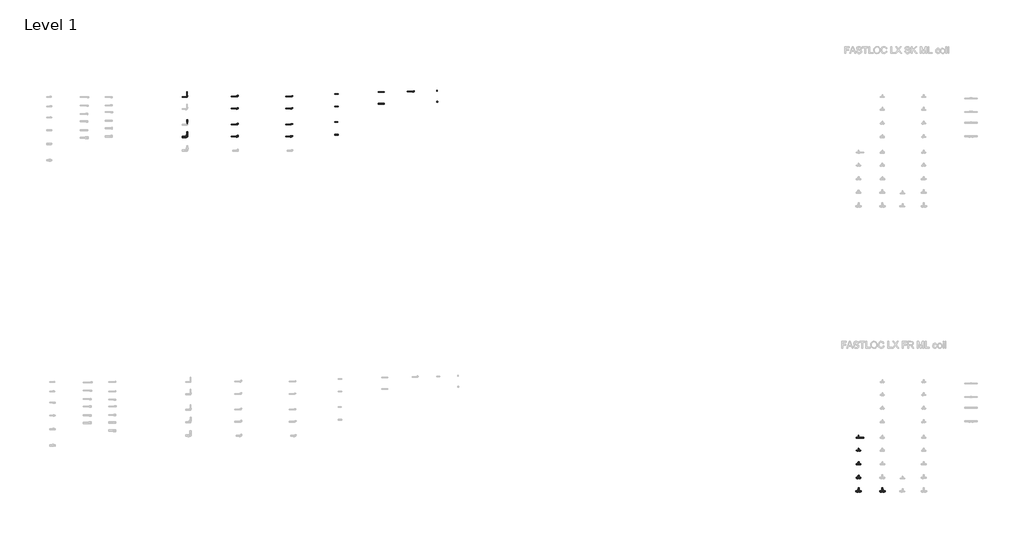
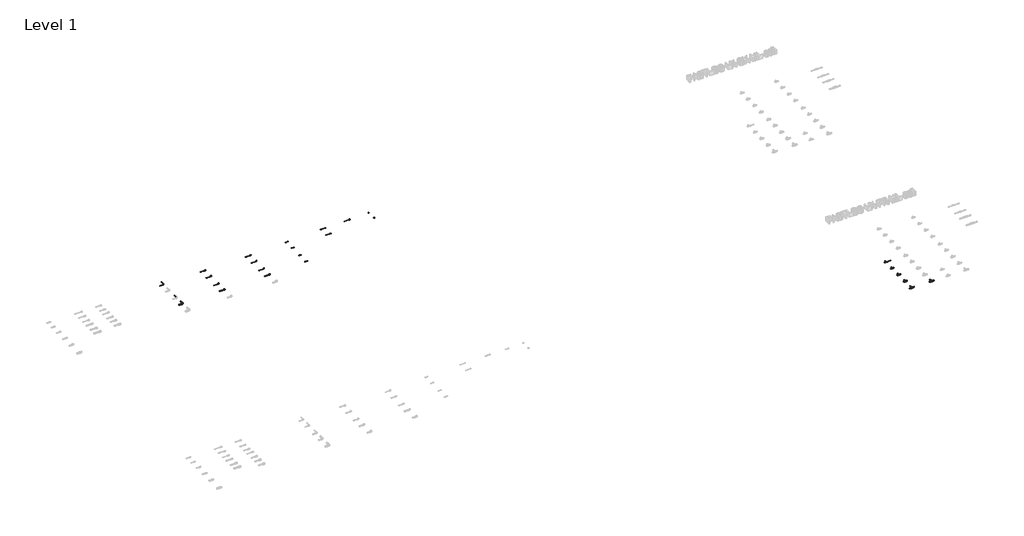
# One storey, part 33 of 78: 39 pipe segments, 19 pipe fittings.
"""IFC4 building model written with IfcOpenShell, lengths in millimetres."""

from ifc_helpers import new_model, si_unit, point, frame, frame_2d, origin, place, context, project, spatial, circle_curve, trimmed, segment, composite_curve, outline, extrude, transform, mapped, element, save
from components import pipe_fitting_ec6341fa, pipe_fitting_b55198ad, pipe_fitting_8d4eabeb, pipe_fitting_91101529, pipe_fitting_310333dd, pipe_fitting_d1609a9c, pipe_fitting_bded02bd, pipe_fitting_da5243fc, pipe_fitting_29102c59, pipe_fitting_edf19c19, pipe_fitting_b873231b, pipe_fitting_ea484583, pipe_fitting_24e9e25e

model = new_model("IFC4")

# Units and contexts
model_context = context("Model", 3, world=origin())
ifc_project = project(units=[si_unit("LENGTHUNIT", "METRE", prefix="MILLI")], contexts=[model_context])

# Site, building, storey
site = spatial("IfcSite", under=ifc_project)
building = spatial("IfcBuilding", under=site)
storey = spatial("IfcBuildingStorey", under=building, Name="Level 1", Elevation=0.0)

# Pipe fittings
placement = place(None, origin())
pipe_fitting_shape = pipe_fitting_ec6341fa(model_context)
element("IfcPipeFitting", 1, ObjectType="FASTLOC_Blanking plug LX : FSL Bp LX IT", at=placement, inside=storey, context=model_context, shape_type="MappedRepresentation", body=[
    mapped(pipe_fitting_shape, transform((43295.4857845, -18556.0968766, 0.0), x_axis=(1.0, 0.0, 0.0), y_axis=(0.0, 1.0, 0.0), z_axis=(0.0, 0.0, 1.0))),
])
pipe_fitting_2_shape = pipe_fitting_b55198ad(model_context)
element("IfcPipeFitting", 2, ObjectType="FASTLOC_Corner LX : FSL C LX IT", at=placement, inside=storey, context=model_context, shape_type="MappedRepresentation", body=[
    mapped(pipe_fitting_2_shape, transform((35945.4707441, -18738.8136389, 0.0), x_axis=(1.0, 0.0, 0.0), y_axis=(0.0, 1.0, 0.0), z_axis=(0.0, 0.0, 1.0))),
])
pipe_fitting_3_shape = pipe_fitting_8d4eabeb(model_context)
element("IfcPipeFitting", 3, ObjectType="FASTLOC_Elbow with female thread LX : FSL A internal IT", at=placement, inside=storey, context=model_context, shape_type="MappedRepresentation", body=[
    mapped(pipe_fitting_3_shape, transform((39036.9744513, -18724.4914884, 0.0), x_axis=(1.0, 0.0, 0.0), y_axis=(0.0, 1.0, 0.0), z_axis=(0.0, 0.0, 1.0))),
])
element("IfcPipeFitting", 4, ObjectType="FASTLOC_Elbow with female thread LX : FSL A internal IT", at=placement, inside=storey, context=model_context, shape_type="MappedRepresentation", body=[
    mapped(pipe_fitting_3_shape, transform((39036.9744513, -19084.4914884, 0.0), x_axis=(1.0, 0.0, 0.0), y_axis=(0.0, 1.0, 0.0), z_axis=(0.0, 0.0, 1.0))),
])
element("IfcPipeFitting", 5, ObjectType="FASTLOC_Elbow with female thread LX : FSL A internal IT", at=placement, inside=storey, context=model_context, shape_type="MappedRepresentation", body=[
    mapped(pipe_fitting_3_shape, transform((39036.9744513, -19544.4914884, 0.0), x_axis=(1.0, 0.0, 0.0), y_axis=(0.0, 1.0, 0.0), z_axis=(0.0, 0.0, 1.0))),
])
pipe_fitting_4_shape = pipe_fitting_91101529(model_context)
element("IfcPipeFitting", 6, ObjectType="FASTLOC_Elbow with male thread G LX : FSL A internal IT", at=placement, inside=storey, context=model_context, shape_type="MappedRepresentation", body=[
    mapped(pipe_fitting_4_shape, transform((42625.293627, -18583.7740244, 0.0), x_axis=(1.0, 0.0, 0.0), y_axis=(0.0, 1.0, 0.0), z_axis=(0.0, 0.0, 1.0))),
])
pipe_fitting_5_shape = pipe_fitting_310333dd(model_context)
element("IfcPipeFitting", 7, ObjectType="FASTLOC_Elbow with male thread LX : FSL A internal IT", at=placement, inside=storey, context=model_context, shape_type="MappedRepresentation", body=[
    mapped(pipe_fitting_5_shape, transform((37436.9744513, -18724.4914884, 0.0), x_axis=(1.0, 0.0, 0.0), y_axis=(0.0, 1.0, 0.0), z_axis=(0.0, 0.0, 1.0))),
])
element("IfcPipeFitting", 8, ObjectType="FASTLOC_Elbow with male thread LX : FSL A internal IT", at=placement, inside=storey, context=model_context, shape_type="MappedRepresentation", body=[
    mapped(pipe_fitting_5_shape, transform((37436.9744513, -19084.4914884, 0.0), x_axis=(1.0, 0.0, 0.0), y_axis=(0.0, 1.0, 0.0), z_axis=(0.0, 0.0, 1.0))),
])
element("IfcPipeFitting", 9, ObjectType="FASTLOC_Elbow with male thread LX : FSL A internal IT", at=placement, inside=storey, context=model_context, shape_type="MappedRepresentation", body=[
    mapped(pipe_fitting_5_shape, transform((37436.9744513, -19544.4914884, 0.0), x_axis=(1.0, 0.0, 0.0), y_axis=(0.0, 1.0, 0.0), z_axis=(0.0, 0.0, 1.0))),
])
pipe_fitting_6_shape = pipe_fitting_d1609a9c(model_context)
element("IfcPipeFitting", 10, ObjectType="FASTLOC_T-piece_LX : FSL T-Piece LX FR", at=placement, inside=storey, context=model_context, shape_type="MappedRepresentation", body=[
    mapped(pipe_fitting_6_shape, transform((55726.7498072, -28780.2405791, 0.0), x_axis=(1.0, 0.0, 0.0), y_axis=(0.0, 1.0, 0.0), z_axis=(0.0, 0.0, 1.0))),
])
pipe_fitting_7_shape = pipe_fitting_bded02bd(model_context)
element("IfcPipeFitting", 11, ObjectType="FASTLOC_T-piece_LX : FSL T-Piece LX FR", at=placement, inside=storey, context=model_context, shape_type="MappedRepresentation", body=[
    mapped(pipe_fitting_7_shape, transform((55726.7498072, -29160.2405791, 0.0), x_axis=(1.0, 0.0, 0.0), y_axis=(0.0, 1.0, 0.0), z_axis=(0.0, 0.0, 1.0))),
])
pipe_fitting_8_shape = pipe_fitting_da5243fc(model_context)
element("IfcPipeFitting", 12, ObjectType="FASTLOC_T-piece_LX : FSL T-Piece LX FR", at=placement, inside=storey, context=model_context, shape_type="MappedRepresentation", body=[
    mapped(pipe_fitting_8_shape, transform((55726.7498072, -29560.2405791, 0.0), x_axis=(1.0, 0.0, 0.0), y_axis=(0.0, 1.0, 0.0), z_axis=(0.0, 0.0, 1.0))),
])
pipe_fitting_9_shape = pipe_fitting_29102c59(model_context)
element("IfcPipeFitting", 13, ObjectType="FASTLOC_T-piece_LX : FSL T-Piece LX FR", at=placement, inside=storey, context=model_context, shape_type="MappedRepresentation", body=[
    mapped(pipe_fitting_9_shape, transform((55726.7498072, -29960.2405791, 0.0), x_axis=(1.0, 0.0, 0.0), y_axis=(0.0, 1.0, 0.0), z_axis=(0.0, 0.0, 1.0))),
])
element("IfcPipeFitting", 14, ObjectType="FASTLOC_T-piece_LX : FSL T-Piece LX FR", at=placement, inside=storey, context=model_context, shape_type="MappedRepresentation", body=[
    mapped(pipe_fitting_9_shape, transform((55726.7498072, -30360.2405791, 0.0), x_axis=(1.0, 0.0, 0.0), y_axis=(0.0, 1.0, 0.0), z_axis=(0.0, 0.0, 1.0))),
])
element("IfcPipeFitting", 15, ObjectType="FASTLOC_T-piece_LX : FSL T-Piece LX FR", at=placement, inside=storey, context=model_context, shape_type="MappedRepresentation", body=[
    mapped(pipe_fitting_9_shape, transform((56426.7498072, -30360.2405791, 0.0), x_axis=(1.0, 0.0, 0.0), y_axis=(0.0, 1.0, 0.0), z_axis=(0.0, 0.0, 1.0))),
])
pipe_fitting_10_shape = pipe_fitting_edf19c19(model_context)
element("IfcPipeFitting", 16, ObjectType="FASTLOC_Corner LX : FSL C LX IT", at=placement, inside=storey, context=model_context, shape_type="MappedRepresentation", body=[
    mapped(pipe_fitting_10_shape, transform((35945.4707441, -19918.8136389, 0.0), x_axis=(1.0, 0.0, 0.0), y_axis=(0.0, 1.0, 0.0), z_axis=(0.0, 0.0, 1.0))),
])
pipe_fitting_11_shape = pipe_fitting_b873231b(model_context)
element("IfcPipeFitting", 17, ObjectType="FASTLOC_Elbow with male thread LX : FSL A internal IT", at=placement, inside=storey, context=model_context, shape_type="MappedRepresentation", body=[
    mapped(pipe_fitting_11_shape, transform((37436.9744513, -19904.4914884, 0.0), x_axis=(1.0, 0.0, 0.0), y_axis=(0.0, 1.0, 0.0), z_axis=(0.0, 0.0, 1.0))),
])
pipe_fitting_12_shape = pipe_fitting_ea484583(model_context)
element("IfcPipeFitting", 18, ObjectType="FASTLOC_Elbow with female thread LX : FSL A internal IT", at=placement, inside=storey, context=model_context, shape_type="MappedRepresentation", body=[
    mapped(pipe_fitting_12_shape, transform((39036.9744513, -19904.4914884, 0.0), x_axis=(1.0, 0.0, 0.0), y_axis=(0.0, 1.0, 0.0), z_axis=(0.0, 0.0, 1.0))),
])
pipe_fitting_13_shape = pipe_fitting_24e9e25e(model_context)
element("IfcPipeFitting", 19, ObjectType="FASTLOC_Blanking plug LX : FSL Bp LX IT", at=placement, inside=storey, context=model_context, shape_type="MappedRepresentation", body=[
    mapped(pipe_fitting_13_shape, transform((43295.4857845, -18876.0968766, 0.0), x_axis=(1.0, 0.0, 0.0), y_axis=(0.0, 1.0, 0.0), z_axis=(0.0, 0.0, 1.0))),
])

# Pipe segments
element("IfcPipeSegment", 20, ObjectType="FASTLOC LX ML IT bar", at=placement, inside=storey, context=model_context, shape_type="SweptSolid", body=[
    extrude(outline(composite_curve([segment(trimmed(circle_curve(frame_2d((-18738.8136389, 0.0)), 8.0), [point((-18730.8136389, 0.0))], [point((-18738.8136389, -8.0))], False, "CARTESIAN"), True, "CONTINUOUS"), segment(trimmed(circle_curve(frame_2d((-18738.8136389, 0.0)), 8.0), [point((-18738.8136389, -8.0))], [point((-18746.8136389, 0.0))], False, "CARTESIAN"), True, "CONTINUOUS"), segment(trimmed(circle_curve(frame_2d((-18738.8136389, 0.0)), 8.0), [point((-18746.8136389, 0.0))], [point((-18738.8136389, 8.0))], False, "CARTESIAN"), True, "CONTINUOUS"), segment(trimmed(circle_curve(frame_2d((-18738.8136389, 0.0)), 8.0), [point((-18738.8136389, 8.0))], [point((-18730.8136389, 0.0))], False, "CARTESIAN"), True, "CONTINUOUS")], self_intersect=False)), frame((35803.3707441, 0.0, 0.0), z_axis=(1.0, 0.0, 0.0), x_axis=(0.0, 1.0, 0.0)), (0.0, 0.0, 1.0), 120.0),
])
element("IfcPipeSegment", 21, ObjectType="FASTLOC LX ML IT bar", at=placement, inside=storey, context=model_context, shape_type="SweptSolid", body=[
    extrude(outline(composite_curve([segment(trimmed(circle_curve(frame_2d((0.0, 35945.4707441)), 8.0), [point((0.0, 35953.4707441))], [point((8.0, 35945.4707441))], False, "CARTESIAN"), True, "CONTINUOUS"), segment(trimmed(circle_curve(frame_2d((0.0, 35945.4707441)), 8.0), [point((8.0, 35945.4707441))], [point((0.0, 35937.4707441))], False, "CARTESIAN"), True, "CONTINUOUS"), segment(trimmed(circle_curve(frame_2d((0.0, 35945.4707441)), 8.0), [point((0.0, 35937.4707441))], [point((-8.0, 35945.4707441))], False, "CARTESIAN"), True, "CONTINUOUS"), segment(trimmed(circle_curve(frame_2d((0.0, 35945.4707441)), 8.0), [point((-8.0, 35945.4707441))], [point((0.0, 35953.4707441))], False, "CARTESIAN"), True, "CONTINUOUS")], self_intersect=False)), frame((0.0, -18716.7136389, 0.0), z_axis=(0.0, 1.0, 0.0), x_axis=(0.0, 0.0, 1.0)), (0.0, 0.0, 1.0), 125.0),
])
element("IfcPipeSegment", 22, ObjectType="FASTLOC LX ML IT bar", at=placement, inside=storey, context=model_context, shape_type="SweptSolid", body=[
    extrude(outline(composite_curve([segment(trimmed(circle_curve(frame_2d((0.0, 35945.4707441)), 12.5), [point((0.0, 35957.9707441))], [point((12.5, 35945.4707441))], False, "CARTESIAN"), True, "CONTINUOUS"), segment(trimmed(circle_curve(frame_2d((0.0, 35945.4707441)), 12.5), [point((12.5, 35945.4707441))], [point((0.0, 35932.9707441))], False, "CARTESIAN"), True, "CONTINUOUS"), segment(trimmed(circle_curve(frame_2d((0.0, 35945.4707441)), 12.5), [point((0.0, 35932.9707441))], [point((-12.5, 35945.4707441))], False, "CARTESIAN"), True, "CONTINUOUS"), segment(trimmed(circle_curve(frame_2d((0.0, 35945.4707441)), 12.5), [point((-12.5, 35945.4707441))], [point((0.0, 35957.9707441))], False, "CARTESIAN"), True, "CONTINUOUS")], self_intersect=False)), frame((0.0, -19529.8136389, 0.0), z_axis=(0.0, 1.0, 0.0), x_axis=(0.0, 0.0, 1.0)), (0.0, 0.0, 1.0), 118.1),
])
element("IfcPipeSegment", 23, ObjectType="FASTLOC LX ML IT bar", at=placement, inside=storey, context=model_context, shape_type="SweptSolid", body=[
    extrude(outline(composite_curve([segment(trimmed(circle_curve(frame_2d((-19918.8136389, 0.0)), 16.0), [point((-19902.8136389, 0.0))], [point((-19918.8136389, -16.0))], False, "CARTESIAN"), True, "CONTINUOUS"), segment(trimmed(circle_curve(frame_2d((-19918.8136389, 0.0)), 16.0), [point((-19918.8136389, -16.0))], [point((-19934.8136389, 0.0))], False, "CARTESIAN"), True, "CONTINUOUS"), segment(trimmed(circle_curve(frame_2d((-19918.8136389, 0.0)), 16.0), [point((-19934.8136389, 0.0))], [point((-19918.8136389, 16.0))], False, "CARTESIAN"), True, "CONTINUOUS"), segment(trimmed(circle_curve(frame_2d((-19918.8136389, 0.0)), 16.0), [point((-19918.8136389, 16.0))], [point((-19902.8136389, 0.0))], False, "CARTESIAN"), True, "CONTINUOUS")], self_intersect=False)), frame((35803.3707441, 0.0, 0.0), z_axis=(1.0, 0.0, 0.0), x_axis=(0.0, 1.0, 0.0)), (0.0, 0.0, 1.0), 107.1),
])
element("IfcPipeSegment", 24, ObjectType="FASTLOC LX ML IT bar", at=placement, inside=storey, context=model_context, shape_type="SweptSolid", body=[
    extrude(outline(composite_curve([segment(trimmed(circle_curve(frame_2d((0.0, 35945.4707441)), 16.0), [point((0.0, 35961.4707441))], [point((16.0, 35945.4707441))], False, "CARTESIAN"), True, "CONTINUOUS"), segment(trimmed(circle_curve(frame_2d((0.0, 35945.4707441)), 16.0), [point((16.0, 35945.4707441))], [point((0.0, 35929.4707441))], False, "CARTESIAN"), True, "CONTINUOUS"), segment(trimmed(circle_curve(frame_2d((0.0, 35945.4707441)), 16.0), [point((0.0, 35929.4707441))], [point((-16.0, 35945.4707441))], False, "CARTESIAN"), True, "CONTINUOUS"), segment(trimmed(circle_curve(frame_2d((0.0, 35945.4707441)), 16.0), [point((-16.0, 35945.4707441))], [point((0.0, 35961.4707441))], False, "CARTESIAN"), True, "CONTINUOUS")], self_intersect=False)), frame((0.0, -19883.8136389, 0.0), z_axis=(0.0, 1.0, 0.0), x_axis=(0.0, 0.0, 1.0)), (0.0, 0.0, 1.0), 112.1),
])
element("IfcPipeSegment", 25, ObjectType="FASTLOC LX ML IT bar", at=placement, inside=storey, context=model_context, shape_type="SweptSolid", body=[
    extrude(outline(composite_curve([segment(trimmed(circle_curve(frame_2d((-18724.4914884, 0.0)), 8.0), [point((-18716.4914884, 0.0))], [point((-18724.4914884, -8.0))], False, "CARTESIAN"), True, "CONTINUOUS"), segment(trimmed(circle_curve(frame_2d((-18724.4914884, 0.0)), 8.0), [point((-18724.4914884, -8.0))], [point((-18732.4914884, 0.0))], False, "CARTESIAN"), True, "CONTINUOUS"), segment(trimmed(circle_curve(frame_2d((-18724.4914884, 0.0)), 8.0), [point((-18732.4914884, 0.0))], [point((-18724.4914884, 8.0))], False, "CARTESIAN"), True, "CONTINUOUS"), segment(trimmed(circle_curve(frame_2d((-18724.4914884, 0.0)), 8.0), [point((-18724.4914884, 8.0))], [point((-18716.4914884, 0.0))], False, "CARTESIAN"), True, "CONTINUOUS")], self_intersect=False)), frame((37246.7744513, 0.0, 0.0), z_axis=(1.0, 0.0, 0.0), x_axis=(0.0, 1.0, 0.0)), (0.0, 0.0, 1.0), 170.0),
])
element("IfcPipeSegment", 26, ObjectType="FASTLOC LX ML IT bar", at=placement, inside=storey, context=model_context, shape_type="SweptSolid", body=[
    extrude(outline(composite_curve([segment(trimmed(circle_curve(frame_2d((-19084.4914884, 0.0)), 8.0), [point((-19076.4914884, 0.0))], [point((-19084.4914884, -8.0))], False, "CARTESIAN"), True, "CONTINUOUS"), segment(trimmed(circle_curve(frame_2d((-19084.4914884, 0.0)), 8.0), [point((-19084.4914884, -8.0))], [point((-19092.4914884, 0.0))], False, "CARTESIAN"), True, "CONTINUOUS"), segment(trimmed(circle_curve(frame_2d((-19084.4914884, 0.0)), 8.0), [point((-19092.4914884, 0.0))], [point((-19084.4914884, 8.0))], False, "CARTESIAN"), True, "CONTINUOUS"), segment(trimmed(circle_curve(frame_2d((-19084.4914884, 0.0)), 8.0), [point((-19084.4914884, 8.0))], [point((-19076.4914884, 0.0))], False, "CARTESIAN"), True, "CONTINUOUS")], self_intersect=False)), frame((37246.7744513, 0.0, 0.0), z_axis=(1.0, 0.0, 0.0), x_axis=(0.0, 1.0, 0.0)), (0.0, 0.0, 1.0), 170.0),
])
element("IfcPipeSegment", 27, ObjectType="FASTLOC LX ML IT bar", at=placement, inside=storey, context=model_context, shape_type="SweptSolid", body=[
    extrude(outline(composite_curve([segment(trimmed(circle_curve(frame_2d((-19544.4914884, 0.0)), 8.0), [point((-19536.4914884, 0.0))], [point((-19544.4914884, -8.0))], False, "CARTESIAN"), True, "CONTINUOUS"), segment(trimmed(circle_curve(frame_2d((-19544.4914884, 0.0)), 8.0), [point((-19544.4914884, -8.0))], [point((-19552.4914884, 0.0))], False, "CARTESIAN"), True, "CONTINUOUS"), segment(trimmed(circle_curve(frame_2d((-19544.4914884, 0.0)), 8.0), [point((-19552.4914884, 0.0))], [point((-19544.4914884, 8.0))], False, "CARTESIAN"), True, "CONTINUOUS"), segment(trimmed(circle_curve(frame_2d((-19544.4914884, 0.0)), 8.0), [point((-19544.4914884, 8.0))], [point((-19536.4914884, 0.0))], False, "CARTESIAN"), True, "CONTINUOUS")], self_intersect=False)), frame((37246.7744513, 0.0, 0.0), z_axis=(1.0, 0.0, 0.0), x_axis=(0.0, 1.0, 0.0)), (0.0, 0.0, 1.0), 170.0),
])
element("IfcPipeSegment", 28, ObjectType="FASTLOC LX ML IT bar", at=placement, inside=storey, context=model_context, shape_type="SweptSolid", body=[
    extrude(outline(composite_curve([segment(trimmed(circle_curve(frame_2d((-18654.4604595, 0.0)), 8.0), [point((-18646.4604595, 0.0))], [point((-18654.4604595, -8.0))], False, "CARTESIAN"), True, "CONTINUOUS"), segment(trimmed(circle_curve(frame_2d((-18654.4604595, 0.0)), 8.0), [point((-18654.4604595, -8.0))], [point((-18662.4604595, 0.0))], False, "CARTESIAN"), True, "CONTINUOUS"), segment(trimmed(circle_curve(frame_2d((-18654.4604595, 0.0)), 8.0), [point((-18662.4604595, 0.0))], [point((-18654.4604595, 8.0))], False, "CARTESIAN"), True, "CONTINUOUS"), segment(trimmed(circle_curve(frame_2d((-18654.4604595, 0.0)), 8.0), [point((-18654.4604595, 8.0))], [point((-18646.4604595, 0.0))], False, "CARTESIAN"), True, "CONTINUOUS")], self_intersect=False)), frame((40298.9809397, 0.0, 0.0), z_axis=(1.0, 0.0, 0.0), x_axis=(0.0, 1.0, 0.0)), (0.0, 0.0, 1.0), 93.8),
])
element("IfcPipeSegment", 29, ObjectType="FASTLOC LX ML IT bar", at=placement, inside=storey, context=model_context, shape_type="SweptSolid", body=[
    extrude(outline(composite_curve([segment(trimmed(circle_curve(frame_2d((-19014.4604595, 0.0)), 8.0), [point((-19006.4604595, 0.0))], [point((-19014.4604595, -8.0))], False, "CARTESIAN"), True, "CONTINUOUS"), segment(trimmed(circle_curve(frame_2d((-19014.4604595, 0.0)), 8.0), [point((-19014.4604595, -8.0))], [point((-19022.4604595, 0.0))], False, "CARTESIAN"), True, "CONTINUOUS"), segment(trimmed(circle_curve(frame_2d((-19014.4604595, 0.0)), 8.0), [point((-19022.4604595, 0.0))], [point((-19014.4604595, 8.0))], False, "CARTESIAN"), True, "CONTINUOUS"), segment(trimmed(circle_curve(frame_2d((-19014.4604595, 0.0)), 8.0), [point((-19014.4604595, 8.0))], [point((-19006.4604595, 0.0))], False, "CARTESIAN"), True, "CONTINUOUS")], self_intersect=False)), frame((40298.9809397, 0.0, 0.0), z_axis=(1.0, 0.0, 0.0), x_axis=(0.0, 1.0, 0.0)), (0.0, 0.0, 1.0), 99.6),
])
element("IfcPipeSegment", 30, ObjectType="FASTLOC LX ML IT bar", at=placement, inside=storey, context=model_context, shape_type="SweptSolid", body=[
    extrude(outline(composite_curve([segment(trimmed(circle_curve(frame_2d((-18556.0968766, 0.0)), 8.0), [point((-18564.0968766, 0.0))], [point((-18556.0968766, 8.0))], False, "CARTESIAN"), True, "CONTINUOUS"), segment(trimmed(circle_curve(frame_2d((-18556.0968766, 0.0)), 8.0), [point((-18556.0968766, 8.0))], [point((-18548.0968766, 0.0))], False, "CARTESIAN"), True, "CONTINUOUS"), segment(trimmed(circle_curve(frame_2d((-18556.0968766, 0.0)), 8.0), [point((-18548.0968766, 0.0))], [point((-18556.0968766, -8.0))], False, "CARTESIAN"), True, "CONTINUOUS"), segment(trimmed(circle_curve(frame_2d((-18556.0968766, 0.0)), 8.0), [point((-18556.0968766, -8.0))], [point((-18564.0968766, 0.0))], False, "CARTESIAN"), True, "CONTINUOUS")], self_intersect=False)), frame((43302.1857845, 0.0, 0.0), z_axis=(1.0, 0.0, 0.0), x_axis=(0.0, 1.0, 0.0)), (0.0, 0.0, 1.0), 14.0),
])
element("IfcPipeSegment", 31, ObjectType="FASTLOC LX ML IT bar", at=placement, inside=storey, context=model_context, shape_type="SweptSolid", body=[
    extrude(outline(composite_curve([segment(trimmed(circle_curve(frame_2d((-19904.4914884, 0.0)), 12.5), [point((-19891.9914884, 0.0))], [point((-19904.4914884, -12.5))], False, "CARTESIAN"), True, "CONTINUOUS"), segment(trimmed(circle_curve(frame_2d((-19904.4914884, 0.0)), 12.5), [point((-19904.4914884, -12.5))], [point((-19916.9914884, 0.0))], False, "CARTESIAN"), True, "CONTINUOUS"), segment(trimmed(circle_curve(frame_2d((-19904.4914884, 0.0)), 12.5), [point((-19916.9914884, 0.0))], [point((-19904.4914884, 12.5))], False, "CARTESIAN"), True, "CONTINUOUS"), segment(trimmed(circle_curve(frame_2d((-19904.4914884, 0.0)), 12.5), [point((-19904.4914884, 12.5))], [point((-19891.9914884, 0.0))], False, "CARTESIAN"), True, "CONTINUOUS")], self_intersect=False)), frame((37246.7744513, 0.0, 0.0), z_axis=(1.0, 0.0, 0.0), x_axis=(0.0, 1.0, 0.0)), (0.0, 0.0, 1.0), 166.0),
])
element("IfcPipeSegment", 32, ObjectType="FASTLOC LX ML IT bar", at=placement, inside=storey, context=model_context, shape_type="SweptSolid", body=[
    extrude(outline(composite_curve([segment(trimmed(circle_curve(frame_2d((-19474.4604595, 0.0)), 8.0), [point((-19466.4604595, 0.0))], [point((-19474.4604595, -8.0))], False, "CARTESIAN"), True, "CONTINUOUS"), segment(trimmed(circle_curve(frame_2d((-19474.4604595, 0.0)), 8.0), [point((-19474.4604595, -8.0))], [point((-19482.4604595, 0.0))], False, "CARTESIAN"), True, "CONTINUOUS"), segment(trimmed(circle_curve(frame_2d((-19474.4604595, 0.0)), 8.0), [point((-19482.4604595, 0.0))], [point((-19474.4604595, 8.0))], False, "CARTESIAN"), True, "CONTINUOUS"), segment(trimmed(circle_curve(frame_2d((-19474.4604595, 0.0)), 8.0), [point((-19474.4604595, 8.0))], [point((-19466.4604595, 0.0))], False, "CARTESIAN"), True, "CONTINUOUS")], self_intersect=False)), frame((40298.9809397, 0.0, 0.0), z_axis=(1.0, 0.0, 0.0), x_axis=(0.0, 1.0, 0.0)), (0.0, 0.0, 1.0), 89.6),
])
element("IfcPipeSegment", 33, ObjectType="FASTLOC LX ML IT bar", at=placement, inside=storey, context=model_context, shape_type="SweptSolid", body=[
    extrude(outline(composite_curve([segment(trimmed(circle_curve(frame_2d((-19850.4604595, 0.0)), 12.5), [point((-19837.9604595, 0.0))], [point((-19850.4604595, -12.5))], False, "CARTESIAN"), True, "CONTINUOUS"), segment(trimmed(circle_curve(frame_2d((-19850.4604595, 0.0)), 12.5), [point((-19850.4604595, -12.5))], [point((-19862.9604595, 0.0))], False, "CARTESIAN"), True, "CONTINUOUS"), segment(trimmed(circle_curve(frame_2d((-19850.4604595, 0.0)), 12.5), [point((-19862.9604595, 0.0))], [point((-19850.4604595, 12.5))], False, "CARTESIAN"), True, "CONTINUOUS"), segment(trimmed(circle_curve(frame_2d((-19850.4604595, 0.0)), 12.5), [point((-19850.4604595, 12.5))], [point((-19837.9604595, 0.0))], False, "CARTESIAN"), True, "CONTINUOUS")], self_intersect=False)), frame((40298.9809397, 0.0, 0.0), z_axis=(1.0, 0.0, 0.0), x_axis=(0.0, 1.0, 0.0)), (0.0, 0.0, 1.0), 95.4),
])
element("IfcPipeSegment", 34, ObjectType="FASTLOC LX ML IT bar", at=placement, inside=storey, context=model_context, shape_type="SweptSolid", body=[
    extrude(outline(composite_curve([segment(trimmed(circle_curve(frame_2d((-18599.4468766, 0.0)), 8.0), [point((-18591.4468766, 0.0))], [point((-18599.4468766, -8.0))], False, "CARTESIAN"), True, "CONTINUOUS"), segment(trimmed(circle_curve(frame_2d((-18599.4468766, 0.0)), 8.0), [point((-18599.4468766, -8.0))], [point((-18607.4468766, 0.0))], False, "CARTESIAN"), True, "CONTINUOUS"), segment(trimmed(circle_curve(frame_2d((-18599.4468766, 0.0)), 8.0), [point((-18607.4468766, 0.0))], [point((-18599.4468766, 8.0))], False, "CARTESIAN"), True, "CONTINUOUS"), segment(trimmed(circle_curve(frame_2d((-18599.4468766, 0.0)), 8.0), [point((-18599.4468766, 8.0))], [point((-18591.4468766, 0.0))], False, "CARTESIAN"), True, "CONTINUOUS")], self_intersect=False)), frame((41570.7335921, 0.0, 0.0), z_axis=(1.0, 0.0, 0.0), x_axis=(0.0, 1.0, 0.0)), (0.0, 0.0, 1.0), 185.0),
])
element("IfcPipeSegment", 35, ObjectType="FASTLOC LX ML IT bar", at=placement, inside=storey, context=model_context, shape_type="SweptSolid", body=[
    extrude(outline(composite_curve([segment(trimmed(circle_curve(frame_2d((-18939.4468766, 0.0)), 8.0), [point((-18931.4468766, 0.0))], [point((-18939.4468766, -8.0))], False, "CARTESIAN"), True, "CONTINUOUS"), segment(trimmed(circle_curve(frame_2d((-18939.4468766, 0.0)), 8.0), [point((-18939.4468766, -8.0))], [point((-18947.4468766, 0.0))], False, "CARTESIAN"), True, "CONTINUOUS"), segment(trimmed(circle_curve(frame_2d((-18939.4468766, 0.0)), 8.0), [point((-18947.4468766, 0.0))], [point((-18939.4468766, 8.0))], False, "CARTESIAN"), True, "CONTINUOUS"), segment(trimmed(circle_curve(frame_2d((-18939.4468766, 0.0)), 8.0), [point((-18939.4468766, 8.0))], [point((-18931.4468766, 0.0))], False, "CARTESIAN"), True, "CONTINUOUS")], self_intersect=False)), frame((41570.7335921, 0.0, 0.0), z_axis=(1.0, 0.0, 0.0), x_axis=(0.0, 1.0, 0.0)), (0.0, 0.0, 1.0), 185.0),
])
element("IfcPipeSegment", 36, ObjectType="FASTLOC LX ML IT bar", at=placement, inside=storey, context=model_context, shape_type="SweptSolid", body=[
    extrude(outline(composite_curve([segment(trimmed(circle_curve(frame_2d((-18724.4914884, 0.0)), 8.0), [point((-18716.4914884, 0.0))], [point((-18724.4914884, -8.0))], False, "CARTESIAN"), True, "CONTINUOUS"), segment(trimmed(circle_curve(frame_2d((-18724.4914884, 0.0)), 8.0), [point((-18724.4914884, -8.0))], [point((-18732.4914884, 0.0))], False, "CARTESIAN"), True, "CONTINUOUS"), segment(trimmed(circle_curve(frame_2d((-18724.4914884, 0.0)), 8.0), [point((-18732.4914884, 0.0))], [point((-18724.4914884, 8.0))], False, "CARTESIAN"), True, "CONTINUOUS"), segment(trimmed(circle_curve(frame_2d((-18724.4914884, 0.0)), 8.0), [point((-18724.4914884, 8.0))], [point((-18716.4914884, 0.0))], False, "CARTESIAN"), True, "CONTINUOUS")], self_intersect=False)), frame((38846.7744513, 0.0, 0.0), z_axis=(1.0, 0.0, 0.0), x_axis=(0.0, 1.0, 0.0)), (0.0, 0.0, 1.0), 170.0),
])
element("IfcPipeSegment", 37, ObjectType="FASTLOC LX ML IT bar", at=placement, inside=storey, context=model_context, shape_type="SweptSolid", body=[
    extrude(outline(composite_curve([segment(trimmed(circle_curve(frame_2d((-19084.4914884, 0.0)), 8.0), [point((-19076.4914884, 0.0))], [point((-19084.4914884, -8.0))], False, "CARTESIAN"), True, "CONTINUOUS"), segment(trimmed(circle_curve(frame_2d((-19084.4914884, 0.0)), 8.0), [point((-19084.4914884, -8.0))], [point((-19092.4914884, 0.0))], False, "CARTESIAN"), True, "CONTINUOUS"), segment(trimmed(circle_curve(frame_2d((-19084.4914884, 0.0)), 8.0), [point((-19092.4914884, 0.0))], [point((-19084.4914884, 8.0))], False, "CARTESIAN"), True, "CONTINUOUS"), segment(trimmed(circle_curve(frame_2d((-19084.4914884, 0.0)), 8.0), [point((-19084.4914884, 8.0))], [point((-19076.4914884, 0.0))], False, "CARTESIAN"), True, "CONTINUOUS")], self_intersect=False)), frame((38846.7744513, 0.0, 0.0), z_axis=(1.0, 0.0, 0.0), x_axis=(0.0, 1.0, 0.0)), (0.0, 0.0, 1.0), 170.0),
])
element("IfcPipeSegment", 38, ObjectType="FASTLOC LX ML IT bar", at=placement, inside=storey, context=model_context, shape_type="SweptSolid", body=[
    extrude(outline(composite_curve([segment(trimmed(circle_curve(frame_2d((-19544.4914884, 0.0)), 8.0), [point((-19536.4914884, 0.0))], [point((-19544.4914884, -8.0))], False, "CARTESIAN"), True, "CONTINUOUS"), segment(trimmed(circle_curve(frame_2d((-19544.4914884, 0.0)), 8.0), [point((-19544.4914884, -8.0))], [point((-19552.4914884, 0.0))], False, "CARTESIAN"), True, "CONTINUOUS"), segment(trimmed(circle_curve(frame_2d((-19544.4914884, 0.0)), 8.0), [point((-19552.4914884, 0.0))], [point((-19544.4914884, 8.0))], False, "CARTESIAN"), True, "CONTINUOUS"), segment(trimmed(circle_curve(frame_2d((-19544.4914884, 0.0)), 8.0), [point((-19544.4914884, 8.0))], [point((-19536.4914884, 0.0))], False, "CARTESIAN"), True, "CONTINUOUS")], self_intersect=False)), frame((38846.7744513, 0.0, 0.0), z_axis=(1.0, 0.0, 0.0), x_axis=(0.0, 1.0, 0.0)), (0.0, 0.0, 1.0), 170.0),
])
element("IfcPipeSegment", 39, ObjectType="FASTLOC LX ML IT bar", at=placement, inside=storey, context=model_context, shape_type="SweptSolid", body=[
    extrude(outline(composite_curve([segment(trimmed(circle_curve(frame_2d((-19904.4914884, 0.0)), 12.5), [point((-19891.9914884, 0.0))], [point((-19904.4914884, -12.5))], False, "CARTESIAN"), True, "CONTINUOUS"), segment(trimmed(circle_curve(frame_2d((-19904.4914884, 0.0)), 12.5), [point((-19904.4914884, -12.5))], [point((-19916.9914884, 0.0))], False, "CARTESIAN"), True, "CONTINUOUS"), segment(trimmed(circle_curve(frame_2d((-19904.4914884, 0.0)), 12.5), [point((-19916.9914884, 0.0))], [point((-19904.4914884, 12.5))], False, "CARTESIAN"), True, "CONTINUOUS"), segment(trimmed(circle_curve(frame_2d((-19904.4914884, 0.0)), 12.5), [point((-19904.4914884, 12.5))], [point((-19891.9914884, 0.0))], False, "CARTESIAN"), True, "CONTINUOUS")], self_intersect=False)), frame((38846.7744513, 0.0, 0.0), z_axis=(1.0, 0.0, 0.0), x_axis=(0.0, 1.0, 0.0)), (0.0, 0.0, 1.0), 163.2),
])
element("IfcPipeSegment", 40, ObjectType="FASTLOC LX ML IT bar", at=placement, inside=storey, context=model_context, shape_type="SweptSolid", body=[
    extrude(outline(composite_curve([segment(trimmed(circle_curve(frame_2d((-18583.7740244, 0.0)), 8.0), [point((-18575.7740244, 0.0))], [point((-18583.7740244, -8.0))], False, "CARTESIAN"), True, "CONTINUOUS"), segment(trimmed(circle_curve(frame_2d((-18583.7740244, 0.0)), 8.0), [point((-18583.7740244, -8.0))], [point((-18591.7740244, 0.0))], False, "CARTESIAN"), True, "CONTINUOUS"), segment(trimmed(circle_curve(frame_2d((-18583.7740244, 0.0)), 8.0), [point((-18591.7740244, 0.0))], [point((-18583.7740244, 8.0))], False, "CARTESIAN"), True, "CONTINUOUS"), segment(trimmed(circle_curve(frame_2d((-18583.7740244, 0.0)), 8.0), [point((-18583.7740244, 8.0))], [point((-18575.7740244, 0.0))], False, "CARTESIAN"), True, "CONTINUOUS")], self_intersect=False)), frame((42427.493627, 0.0, 0.0), z_axis=(1.0, 0.0, 0.0), x_axis=(0.0, 1.0, 0.0)), (0.0, 0.0, 1.0), 180.0),
])
element("IfcPipeSegment", 41, ObjectType="FASTLOC LX ML FR coil", at=placement, inside=storey, context=model_context, shape_type="SweptSolid", body=[
    extrude(outline(composite_curve([segment(trimmed(circle_curve(frame_2d((-28780.2405791, 0.0)), 8.0), [point((-28772.2405791, 0.0))], [point((-28780.2405791, -8.0))], False, "CARTESIAN"), True, "CONTINUOUS"), segment(trimmed(circle_curve(frame_2d((-28780.2405791, 0.0)), 8.0), [point((-28780.2405791, -8.0))], [point((-28788.2405791, 0.0))], False, "CARTESIAN"), True, "CONTINUOUS"), segment(trimmed(circle_curve(frame_2d((-28780.2405791, 0.0)), 8.0), [point((-28788.2405791, 0.0))], [point((-28780.2405791, 8.0))], False, "CARTESIAN"), True, "CONTINUOUS"), segment(trimmed(circle_curve(frame_2d((-28780.2405791, 0.0)), 8.0), [point((-28780.2405791, 8.0))], [point((-28772.2405791, 0.0))], False, "CARTESIAN"), True, "CONTINUOUS")], self_intersect=False)), frame((55664.7498072, 0.0, 0.0), z_axis=(1.0, 0.0, 0.0), x_axis=(0.0, 1.0, 0.0)), (0.0, 0.0, 1.0), 47.0),
])
element("IfcPipeSegment", 42, ObjectType="FASTLOC LX ML FR coil", at=placement, inside=storey, context=model_context, shape_type="SweptSolid", body=[
    extrude(outline(composite_curve([segment(trimmed(circle_curve(frame_2d((0.0, 55726.7498072)), 8.0), [point((0.0, 55734.7498072))], [point((8.0, 55726.7498072))], False, "CARTESIAN"), True, "CONTINUOUS"), segment(trimmed(circle_curve(frame_2d((0.0, 55726.7498072)), 8.0), [point((8.0, 55726.7498072))], [point((0.0, 55718.7498072))], False, "CARTESIAN"), True, "CONTINUOUS"), segment(trimmed(circle_curve(frame_2d((0.0, 55726.7498072)), 8.0), [point((0.0, 55718.7498072))], [point((-8.0, 55726.7498072))], False, "CARTESIAN"), True, "CONTINUOUS"), segment(trimmed(circle_curve(frame_2d((0.0, 55726.7498072)), 8.0), [point((-8.0, 55726.7498072))], [point((0.0, 55734.7498072))], False, "CARTESIAN"), True, "CONTINUOUS")], self_intersect=False)), frame((0.0, -28758.1405791, 0.0), z_axis=(0.0, 1.0, 0.0), x_axis=(0.0, 0.0, 1.0)), (0.0, 0.0, 1.0), 50.2),
])
element("IfcPipeSegment", 43, ObjectType="FASTLOC LX ML FR coil", at=placement, inside=storey, context=model_context, shape_type="SweptSolid", body=[
    extrude(outline(composite_curve([segment(trimmed(circle_curve(frame_2d((-29160.2405791, 0.0)), 8.0), [point((-29168.2405791, 0.0))], [point((-29160.2405791, 8.0))], False, "CARTESIAN"), True, "CONTINUOUS"), segment(trimmed(circle_curve(frame_2d((-29160.2405791, 0.0)), 8.0), [point((-29160.2405791, 8.0))], [point((-29152.2405791, 0.0))], False, "CARTESIAN"), True, "CONTINUOUS"), segment(trimmed(circle_curve(frame_2d((-29160.2405791, 0.0)), 8.0), [point((-29152.2405791, 0.0))], [point((-29160.2405791, -8.0))], False, "CARTESIAN"), True, "CONTINUOUS"), segment(trimmed(circle_curve(frame_2d((-29160.2405791, 0.0)), 8.0), [point((-29160.2405791, -8.0))], [point((-29168.2405791, 0.0))], False, "CARTESIAN"), True, "CONTINUOUS")], self_intersect=False)), frame((55743.9498072, 0.0, 0.0), z_axis=(1.0, 0.0, 0.0), x_axis=(0.0, 1.0, 0.0)), (0.0, 0.0, 1.0), 44.8),
])
element("IfcPipeSegment", 44, ObjectType="FASTLOC LX ML FR coil", at=placement, inside=storey, context=model_context, shape_type="SweptSolid", body=[
    extrude(outline(composite_curve([segment(trimmed(circle_curve(frame_2d((-29160.2405791, 0.0)), 8.0), [point((-29152.2405791, 0.0))], [point((-29160.2405791, -8.0))], False, "CARTESIAN"), True, "CONTINUOUS"), segment(trimmed(circle_curve(frame_2d((-29160.2405791, 0.0)), 8.0), [point((-29160.2405791, -8.0))], [point((-29168.2405791, 0.0))], False, "CARTESIAN"), True, "CONTINUOUS"), segment(trimmed(circle_curve(frame_2d((-29160.2405791, 0.0)), 8.0), [point((-29168.2405791, 0.0))], [point((-29160.2405791, 8.0))], False, "CARTESIAN"), True, "CONTINUOUS"), segment(trimmed(circle_curve(frame_2d((-29160.2405791, 0.0)), 8.0), [point((-29160.2405791, 8.0))], [point((-29152.2405791, 0.0))], False, "CARTESIAN"), True, "CONTINUOUS")], self_intersect=False)), frame((55664.7498072, 0.0, 0.0), z_axis=(1.0, 0.0, 0.0), x_axis=(0.0, 1.0, 0.0)), (0.0, 0.0, 1.0), 44.8),
])
element("IfcPipeSegment", 45, ObjectType="FASTLOC LX ML FR coil", at=placement, inside=storey, context=model_context, shape_type="SweptSolid", body=[
    extrude(outline(composite_curve([segment(trimmed(circle_curve(frame_2d((0.0, 55726.7498072)), 8.0), [point((0.0, 55734.7498072))], [point((8.0, 55726.7498072))], False, "CARTESIAN"), True, "CONTINUOUS"), segment(trimmed(circle_curve(frame_2d((0.0, 55726.7498072)), 8.0), [point((8.0, 55726.7498072))], [point((0.0, 55718.7498072))], False, "CARTESIAN"), True, "CONTINUOUS"), segment(trimmed(circle_curve(frame_2d((0.0, 55726.7498072)), 8.0), [point((0.0, 55718.7498072))], [point((-8.0, 55726.7498072))], False, "CARTESIAN"), True, "CONTINUOUS"), segment(trimmed(circle_curve(frame_2d((0.0, 55726.7498072)), 8.0), [point((-8.0, 55726.7498072))], [point((0.0, 55734.7498072))], False, "CARTESIAN"), True, "CONTINUOUS")], self_intersect=False)), frame((0.0, -29133.8405791, 0.0), z_axis=(0.0, 1.0, 0.0), x_axis=(0.0, 0.0, 1.0)), (0.0, 0.0, 1.0), 45.9),
])
element("IfcPipeSegment", 46, ObjectType="FASTLOC LX ML FR coil", at=placement, inside=storey, context=model_context, shape_type="SweptSolid", body=[
    extrude(outline(composite_curve([segment(trimmed(circle_curve(frame_2d((-29560.2405791, 0.0)), 12.5), [point((-29572.7405791, 0.0))], [point((-29560.2405791, 12.5))], False, "CARTESIAN"), True, "CONTINUOUS"), segment(trimmed(circle_curve(frame_2d((-29560.2405791, 0.0)), 12.5), [point((-29560.2405791, 12.5))], [point((-29547.7405791, 0.0))], False, "CARTESIAN"), True, "CONTINUOUS"), segment(trimmed(circle_curve(frame_2d((-29560.2405791, 0.0)), 12.5), [point((-29547.7405791, 0.0))], [point((-29560.2405791, -12.5))], False, "CARTESIAN"), True, "CONTINUOUS"), segment(trimmed(circle_curve(frame_2d((-29560.2405791, 0.0)), 12.5), [point((-29560.2405791, -12.5))], [point((-29572.7405791, 0.0))], False, "CARTESIAN"), True, "CONTINUOUS")], self_intersect=False)), frame((55746.6498072, 0.0, 0.0), z_axis=(1.0, 0.0, 0.0), x_axis=(0.0, 1.0, 0.0)), (0.0, 0.0, 1.0), 42.1),
])
element("IfcPipeSegment", 47, ObjectType="FASTLOC LX ML FR coil", at=placement, inside=storey, context=model_context, shape_type="SweptSolid", body=[
    extrude(outline(composite_curve([segment(trimmed(circle_curve(frame_2d((-29560.2405791, 0.0)), 12.5), [point((-29547.7405791, 0.0))], [point((-29560.2405791, -12.5))], False, "CARTESIAN"), True, "CONTINUOUS"), segment(trimmed(circle_curve(frame_2d((-29560.2405791, 0.0)), 12.5), [point((-29560.2405791, -12.5))], [point((-29572.7405791, 0.0))], False, "CARTESIAN"), True, "CONTINUOUS"), segment(trimmed(circle_curve(frame_2d((-29560.2405791, 0.0)), 12.5), [point((-29572.7405791, 0.0))], [point((-29560.2405791, 12.5))], False, "CARTESIAN"), True, "CONTINUOUS"), segment(trimmed(circle_curve(frame_2d((-29560.2405791, 0.0)), 12.5), [point((-29560.2405791, 12.5))], [point((-29547.7405791, 0.0))], False, "CARTESIAN"), True, "CONTINUOUS")], self_intersect=False)), frame((55664.7498072, 0.0, 0.0), z_axis=(1.0, 0.0, 0.0), x_axis=(0.0, 1.0, 0.0)), (0.0, 0.0, 1.0), 42.1),
])
element("IfcPipeSegment", 48, ObjectType="FASTLOC LX ML FR coil", at=placement, inside=storey, context=model_context, shape_type="SweptSolid", body=[
    extrude(outline(composite_curve([segment(trimmed(circle_curve(frame_2d((0.0, 55726.7498072)), 12.5), [point((0.0, 55739.2498072))], [point((12.5, 55726.7498072))], False, "CARTESIAN"), True, "CONTINUOUS"), segment(trimmed(circle_curve(frame_2d((0.0, 55726.7498072)), 12.5), [point((12.5, 55726.7498072))], [point((0.0, 55714.2498072))], False, "CARTESIAN"), True, "CONTINUOUS"), segment(trimmed(circle_curve(frame_2d((0.0, 55726.7498072)), 12.5), [point((0.0, 55714.2498072))], [point((-12.5, 55726.7498072))], False, "CARTESIAN"), True, "CONTINUOUS"), segment(trimmed(circle_curve(frame_2d((0.0, 55726.7498072)), 12.5), [point((-12.5, 55726.7498072))], [point((0.0, 55739.2498072))], False, "CARTESIAN"), True, "CONTINUOUS")], self_intersect=False)), frame((0.0, -29530.7405791, 0.0), z_axis=(0.0, 1.0, 0.0), x_axis=(0.0, 0.0, 1.0)), (0.0, 0.0, 1.0), 42.8),
])
element("IfcPipeSegment", 49, ObjectType="FASTLOC LX ML FR coil", at=placement, inside=storey, context=model_context, shape_type="SweptSolid", body=[
    extrude(outline(composite_curve([segment(trimmed(circle_curve(frame_2d((-29960.2405791, 0.0)), 16.0), [point((-29976.2405791, 0.0))], [point((-29960.2405791, 16.0))], False, "CARTESIAN"), True, "CONTINUOUS"), segment(trimmed(circle_curve(frame_2d((-29960.2405791, 0.0)), 16.0), [point((-29960.2405791, 16.0))], [point((-29944.2405791, 0.0))], False, "CARTESIAN"), True, "CONTINUOUS"), segment(trimmed(circle_curve(frame_2d((-29960.2405791, 0.0)), 16.0), [point((-29944.2405791, 0.0))], [point((-29960.2405791, -16.0))], False, "CARTESIAN"), True, "CONTINUOUS"), segment(trimmed(circle_curve(frame_2d((-29960.2405791, 0.0)), 16.0), [point((-29960.2405791, -16.0))], [point((-29976.2405791, 0.0))], False, "CARTESIAN"), True, "CONTINUOUS")], self_intersect=False)), frame((55751.5498072, 0.0, 0.0), z_axis=(1.0, 0.0, 0.0), x_axis=(0.0, 1.0, 0.0)), (0.0, 0.0, 1.0), 37.2),
])
element("IfcPipeSegment", 50, ObjectType="FASTLOC LX ML FR coil", at=placement, inside=storey, context=model_context, shape_type="SweptSolid", body=[
    extrude(outline(composite_curve([segment(trimmed(circle_curve(frame_2d((-29960.2405791, 0.0)), 16.0), [point((-29944.2405791, 0.0))], [point((-29960.2405791, -16.0))], False, "CARTESIAN"), True, "CONTINUOUS"), segment(trimmed(circle_curve(frame_2d((-29960.2405791, 0.0)), 16.0), [point((-29960.2405791, -16.0))], [point((-29976.2405791, 0.0))], False, "CARTESIAN"), True, "CONTINUOUS"), segment(trimmed(circle_curve(frame_2d((-29960.2405791, 0.0)), 16.0), [point((-29976.2405791, 0.0))], [point((-29960.2405791, 16.0))], False, "CARTESIAN"), True, "CONTINUOUS"), segment(trimmed(circle_curve(frame_2d((-29960.2405791, 0.0)), 16.0), [point((-29960.2405791, 16.0))], [point((-29944.2405791, 0.0))], False, "CARTESIAN"), True, "CONTINUOUS")], self_intersect=False)), frame((55664.7498072, 0.0, 0.0), z_axis=(1.0, 0.0, 0.0), x_axis=(0.0, 1.0, 0.0)), (0.0, 0.0, 1.0), 37.2),
])
element("IfcPipeSegment", 51, ObjectType="FASTLOC LX ML FR coil", at=placement, inside=storey, context=model_context, shape_type="SweptSolid", body=[
    extrude(outline(composite_curve([segment(trimmed(circle_curve(frame_2d((0.0, 55726.7498072)), 16.0), [point((0.0, 55742.7498072))], [point((16.0, 55726.7498072))], False, "CARTESIAN"), True, "CONTINUOUS"), segment(trimmed(circle_curve(frame_2d((0.0, 55726.7498072)), 16.0), [point((16.0, 55726.7498072))], [point((0.0, 55710.7498072))], False, "CARTESIAN"), True, "CONTINUOUS"), segment(trimmed(circle_curve(frame_2d((0.0, 55726.7498072)), 16.0), [point((0.0, 55710.7498072))], [point((-16.0, 55726.7498072))], False, "CARTESIAN"), True, "CONTINUOUS"), segment(trimmed(circle_curve(frame_2d((0.0, 55726.7498072)), 16.0), [point((-16.0, 55726.7498072))], [point((0.0, 55742.7498072))], False, "CARTESIAN"), True, "CONTINUOUS")], self_intersect=False)), frame((0.0, -29924.1405791, 0.0), z_axis=(0.0, 1.0, 0.0), x_axis=(0.0, 0.0, 1.0)), (0.0, 0.0, 1.0), 36.2),
])
element("IfcPipeSegment", 52, ObjectType="FASTLOC LX ML FR coil", at=placement, inside=storey, context=model_context, shape_type="SweptSolid", body=[
    extrude(outline(composite_curve([segment(trimmed(circle_curve(frame_2d((-30360.2405791, 0.0)), 16.0), [point((-30376.2405791, 0.0))], [point((-30360.2405791, 16.0))], False, "CARTESIAN"), True, "CONTINUOUS"), segment(trimmed(circle_curve(frame_2d((-30360.2405791, 0.0)), 16.0), [point((-30360.2405791, 16.0))], [point((-30344.2405791, 0.0))], False, "CARTESIAN"), True, "CONTINUOUS"), segment(trimmed(circle_curve(frame_2d((-30360.2405791, 0.0)), 16.0), [point((-30344.2405791, 0.0))], [point((-30360.2405791, -16.0))], False, "CARTESIAN"), True, "CONTINUOUS"), segment(trimmed(circle_curve(frame_2d((-30360.2405791, 0.0)), 16.0), [point((-30360.2405791, -16.0))], [point((-30376.2405791, 0.0))], False, "CARTESIAN"), True, "CONTINUOUS")], self_intersect=False)), frame((55751.5498072, 0.0, 0.0), z_axis=(1.0, 0.0, 0.0), x_axis=(0.0, 1.0, 0.0)), (0.0, 0.0, 1.0), 56.6),
])
element("IfcPipeSegment", 53, ObjectType="FASTLOC LX ML FR coil", at=placement, inside=storey, context=model_context, shape_type="SweptSolid", body=[
    extrude(outline(composite_curve([segment(trimmed(circle_curve(frame_2d((-30360.2405791, 0.0)), 16.0), [point((-30344.2405791, 0.0))], [point((-30360.2405791, -16.0))], False, "CARTESIAN"), True, "CONTINUOUS"), segment(trimmed(circle_curve(frame_2d((-30360.2405791, 0.0)), 16.0), [point((-30360.2405791, -16.0))], [point((-30376.2405791, 0.0))], False, "CARTESIAN"), True, "CONTINUOUS"), segment(trimmed(circle_curve(frame_2d((-30360.2405791, 0.0)), 16.0), [point((-30376.2405791, 0.0))], [point((-30360.2405791, 16.0))], False, "CARTESIAN"), True, "CONTINUOUS"), segment(trimmed(circle_curve(frame_2d((-30360.2405791, 0.0)), 16.0), [point((-30360.2405791, 16.0))], [point((-30344.2405791, 0.0))], False, "CARTESIAN"), True, "CONTINUOUS")], self_intersect=False)), frame((55645.3498072, 0.0, 0.0), z_axis=(1.0, 0.0, 0.0), x_axis=(0.0, 1.0, 0.0)), (0.0, 0.0, 1.0), 56.6),
])
element("IfcPipeSegment", 54, ObjectType="FASTLOC LX ML FR coil", at=placement, inside=storey, context=model_context, shape_type="SweptSolid", body=[
    extrude(outline(composite_curve([segment(trimmed(circle_curve(frame_2d((0.0, 55726.7498072)), 16.0), [point((0.0, 55742.7498072))], [point((16.0, 55726.7498072))], False, "CARTESIAN"), True, "CONTINUOUS"), segment(trimmed(circle_curve(frame_2d((0.0, 55726.7498072)), 16.0), [point((16.0, 55726.7498072))], [point((0.0, 55710.7498072))], False, "CARTESIAN"), True, "CONTINUOUS"), segment(trimmed(circle_curve(frame_2d((0.0, 55726.7498072)), 16.0), [point((0.0, 55710.7498072))], [point((-16.0, 55726.7498072))], False, "CARTESIAN"), True, "CONTINUOUS"), segment(trimmed(circle_curve(frame_2d((0.0, 55726.7498072)), 16.0), [point((-16.0, 55726.7498072))], [point((0.0, 55742.7498072))], False, "CARTESIAN"), True, "CONTINUOUS")], self_intersect=False)), frame((0.0, -30324.1405791, 0.0), z_axis=(0.0, 1.0, 0.0), x_axis=(0.0, 0.0, 1.0)), (0.0, 0.0, 1.0), 71.5),
])
element("IfcPipeSegment", 55, ObjectType="FASTLOC LX ML FR coil", at=placement, inside=storey, context=model_context, shape_type="SweptSolid", body=[
    extrude(outline(composite_curve([segment(trimmed(circle_curve(frame_2d((-30360.2405791, 0.0)), 16.0), [point((-30376.2405791, 0.0))], [point((-30360.2405791, 16.0))], False, "CARTESIAN"), True, "CONTINUOUS"), segment(trimmed(circle_curve(frame_2d((-30360.2405791, 0.0)), 16.0), [point((-30360.2405791, 16.0))], [point((-30344.2405791, 0.0))], False, "CARTESIAN"), True, "CONTINUOUS"), segment(trimmed(circle_curve(frame_2d((-30360.2405791, 0.0)), 16.0), [point((-30344.2405791, 0.0))], [point((-30360.2405791, -16.0))], False, "CARTESIAN"), True, "CONTINUOUS"), segment(trimmed(circle_curve(frame_2d((-30360.2405791, 0.0)), 16.0), [point((-30360.2405791, -16.0))], [point((-30376.2405791, 0.0))], False, "CARTESIAN"), True, "CONTINUOUS")], self_intersect=False)), frame((56451.5498072, 0.0, 0.0), z_axis=(1.0, 0.0, 0.0), x_axis=(0.0, 1.0, 0.0)), (0.0, 0.0, 1.0), 56.6),
])
element("IfcPipeSegment", 56, ObjectType="FASTLOC LX ML FR coil", at=placement, inside=storey, context=model_context, shape_type="SweptSolid", body=[
    extrude(outline(composite_curve([segment(trimmed(circle_curve(frame_2d((-30360.2405791, 0.0)), 16.0), [point((-30344.2405791, 0.0))], [point((-30360.2405791, -16.0))], False, "CARTESIAN"), True, "CONTINUOUS"), segment(trimmed(circle_curve(frame_2d((-30360.2405791, 0.0)), 16.0), [point((-30360.2405791, -16.0))], [point((-30376.2405791, 0.0))], False, "CARTESIAN"), True, "CONTINUOUS"), segment(trimmed(circle_curve(frame_2d((-30360.2405791, 0.0)), 16.0), [point((-30376.2405791, 0.0))], [point((-30360.2405791, 16.0))], False, "CARTESIAN"), True, "CONTINUOUS"), segment(trimmed(circle_curve(frame_2d((-30360.2405791, 0.0)), 16.0), [point((-30360.2405791, 16.0))], [point((-30344.2405791, 0.0))], False, "CARTESIAN"), True, "CONTINUOUS")], self_intersect=False)), frame((56345.3498072, 0.0, 0.0), z_axis=(1.0, 0.0, 0.0), x_axis=(0.0, 1.0, 0.0)), (0.0, 0.0, 1.0), 56.6),
])
element("IfcPipeSegment", 57, ObjectType="FASTLOC LX ML FR coil", at=placement, inside=storey, context=model_context, shape_type="SweptSolid", body=[
    extrude(outline(composite_curve([segment(trimmed(circle_curve(frame_2d((0.0, 56426.7498072)), 16.0), [point((0.0, 56442.7498072))], [point((16.0, 56426.7498072))], False, "CARTESIAN"), True, "CONTINUOUS"), segment(trimmed(circle_curve(frame_2d((0.0, 56426.7498072)), 16.0), [point((16.0, 56426.7498072))], [point((0.0, 56410.7498072))], False, "CARTESIAN"), True, "CONTINUOUS"), segment(trimmed(circle_curve(frame_2d((0.0, 56426.7498072)), 16.0), [point((0.0, 56410.7498072))], [point((-16.0, 56426.7498072))], False, "CARTESIAN"), True, "CONTINUOUS"), segment(trimmed(circle_curve(frame_2d((0.0, 56426.7498072)), 16.0), [point((-16.0, 56426.7498072))], [point((0.0, 56442.7498072))], False, "CARTESIAN"), True, "CONTINUOUS")], self_intersect=False)), frame((0.0, -30324.1405791, 0.0), z_axis=(0.0, 1.0, 0.0), x_axis=(0.0, 0.0, 1.0)), (0.0, 0.0, 1.0), 71.5),
])
element("IfcPipeSegment", 58, ObjectType="FASTLOC LX ML FR coil", at=placement, inside=storey, context=model_context, shape_type="SweptSolid", body=[
    extrude(outline(composite_curve([segment(trimmed(circle_curve(frame_2d((-28780.2405791, 0.0)), 8.0), [point((-28788.2405791, 0.0))], [point((-28780.2405791, 8.0))], False, "CARTESIAN"), True, "CONTINUOUS"), segment(trimmed(circle_curve(frame_2d((-28780.2405791, 0.0)), 8.0), [point((-28780.2405791, 8.0))], [point((-28772.2405791, 0.0))], False, "CARTESIAN"), True, "CONTINUOUS"), segment(trimmed(circle_curve(frame_2d((-28780.2405791, 0.0)), 8.0), [point((-28772.2405791, 0.0))], [point((-28780.2405791, -8.0))], False, "CARTESIAN"), True, "CONTINUOUS"), segment(trimmed(circle_curve(frame_2d((-28780.2405791, 0.0)), 8.0), [point((-28780.2405791, -8.0))], [point((-28788.2405791, 0.0))], False, "CARTESIAN"), True, "CONTINUOUS")], self_intersect=False)), frame((55741.7498072, 0.0, 0.0), z_axis=(1.0, 0.0, 0.0), x_axis=(0.0, 1.0, 0.0)), (0.0, 0.0, 1.0), 140.0),
])

save(model, "model.ifc")
